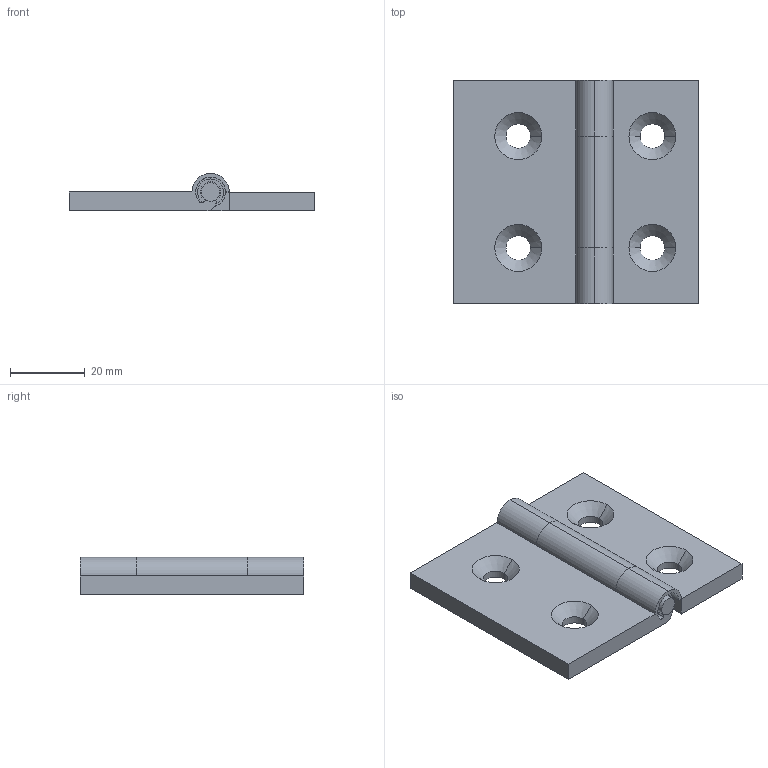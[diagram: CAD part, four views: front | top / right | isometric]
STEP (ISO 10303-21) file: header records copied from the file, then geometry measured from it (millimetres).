
FILE_DESCRIPTION (( 'STEP AP203' ), '1' );
FILE_NAME ('DH35A.STEP', '2019-05-30T02:55:40', ( '' ), ( '' ), 'SwSTEP 2.0', 'SolidWorks 2012', '' );
FILE_SCHEMA (( 'CONFIG_CONTROL_DESIGN' ));
Length unit declared in the file: millimetre
Products named in the file (1): DH35A
Bounding box: 66 x 60 x 10 mm (x, y, z)
Surface area: 12023.3 mm2 (no closed solid volume)
Topology: 0 solids, 7 shells, 83 faces, 242 edges, 169 vertices
Faces by surface type: cylinder 41, plane 34, cone 8
Entity records: 2858 total; most frequent: DIRECTION 517, CARTESIAN_POINT 495, ORIENTED_EDGE 424, EDGE_CURVE 242, AXIS2_PLACEMENT_3D 191, VERTEX_POINT 169, VECTOR 135, LINE 135
